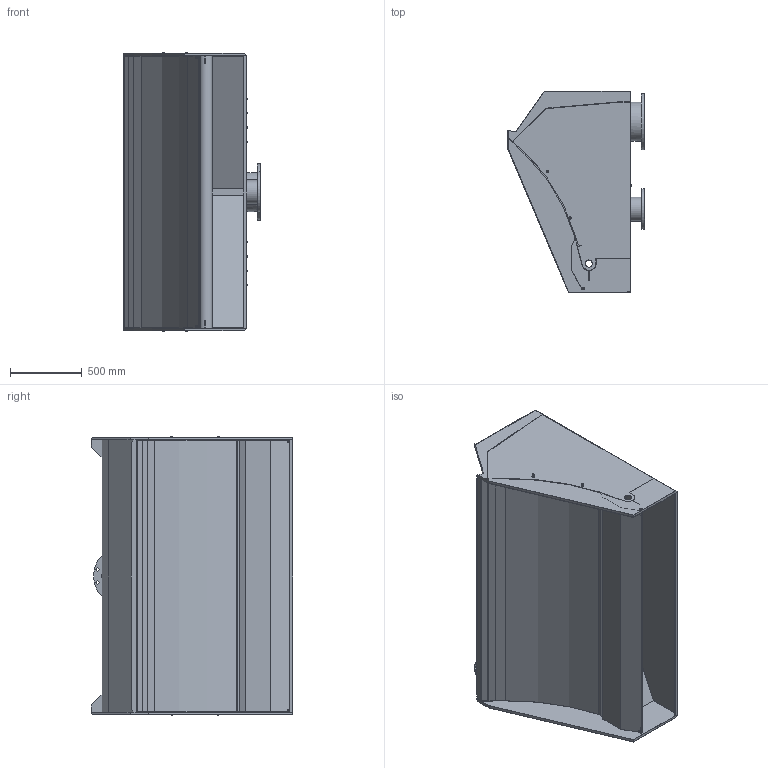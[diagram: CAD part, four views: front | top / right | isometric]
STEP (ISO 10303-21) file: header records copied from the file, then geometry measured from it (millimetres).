
FILE_DESCRIPTION(/* description */ (''),/* implementation_level */ '2;1');
FILE_NAME(/* name */ 'C:\Temp DWG\TS2000-1.stp',/* time_stamp */ '2016-04-05T15:19:55+02:00',/* author */ ('AO'),/* organization */ (''),/* preprocessor_version */ 'ST-DEVELOPER v15.6',/* originating_system */ 'Autodesk Inventor 2015',/* authorisation */ '');
FILE_SCHEMA (('AUTOMOTIVE_DESIGN { 1 0 10303 214 3 1 1 }'));
Products named in the file (1): TS2000-1
Bounding box: 958.53 x 1405 x 1952.2 mm (x, y, z)
Volume: 35542589.2 mm3; surface area: 22104864.6 mm2
Topology: 2 solids, 10 shells, 3012 faces, 7803 edges, 5148 vertices
Faces by surface type: plane 1837, bspline 773, cylinder 236, cone 154, torus 8, sphere 4
Full cylindrical faces by diameter (mm): 4 x4, 4.2 x4, 5.459 x10, 6 x18, 6.4 x16, 6.647 x4, 7 x10, 8 x6, 8.1 x4, 8.4 x4, 8.7 x10, 9 x4, 11 x4, 12 x18, 12.5 x6, 16 x4, 18 x2, 22 x20, 50 x2, 164.3 x1, 166 x1, 168.3 x1, 173 x1, 212 x1, 269 x1, 270 x1, 273 x1, 279 x1, 285 x1, 320 x1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
Entity records: 98857 total; most frequent: CARTESIAN_POINT 28651, ORIENTED_EDGE 14964, DIRECTION 10709, EDGE_CURVE 7465, VERTEX_POINT 5050, LINE 4865, VECTOR 4865, EDGE_LOOP 3700
